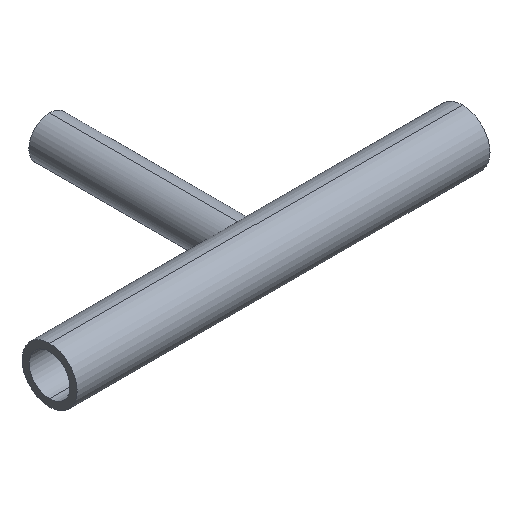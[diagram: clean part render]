
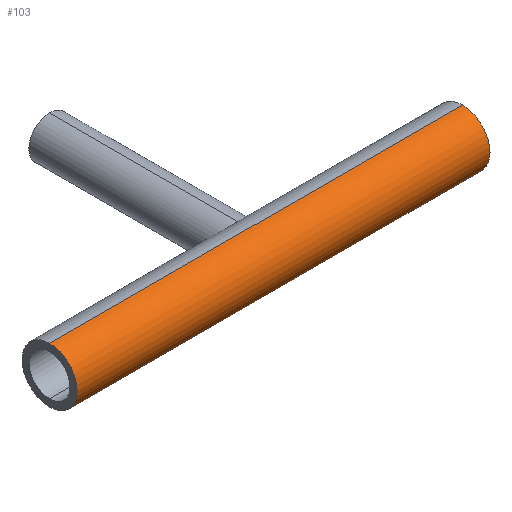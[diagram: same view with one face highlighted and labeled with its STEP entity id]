
A CAD part, isometric view. The second image highlights one B-rep face of the part: STEP entity #103.
In plain terms, the highlighted cylindrical face has radius 6.35 mm (diameter 12.7 mm), a partial arc.
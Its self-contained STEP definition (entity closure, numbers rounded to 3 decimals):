
#1 = AXIS2_PLACEMENT_3D ( 'NONE', #226, #488, #270 ) ;
#20 = CIRCLE ( 'NONE', #1, 6.35 ) ;
#24 = AXIS2_PLACEMENT_3D ( 'NONE', #113, #241, #190 ) ;
#31 = EDGE_CURVE ( 'NONE', #121, #253, #147, .T. ) ;
#33 = CARTESIAN_POINT ( 'NONE',  ( 47.6, 0., 6.35 ) ) ;
#49 = DIRECTION ( 'NONE',  ( 1., 0., 0. ) ) ;
#65 = DIRECTION ( 'NONE',  ( 1., 0., 0. ) ) ;
#79 = EDGE_LOOP ( 'NONE', ( #194, #450, #139, #304 ) ) ;
#103 = ADVANCED_FACE ( 'NONE', ( #364 ), #214, .T. ) ;
#113 = CARTESIAN_POINT ( 'NONE',  ( -47.6, 0., 0. ) ) ;
#121 = VERTEX_POINT ( 'NONE', #350 ) ;
#139 = ORIENTED_EDGE ( 'NONE', *, *, #31, .T. ) ;
#146 = CIRCLE ( 'NONE', #24, 6.35 ) ;
#147 = LINE ( 'NONE', #258, #307 ) ;
#162 = DIRECTION ( 'NONE',  ( 1., 0., 0. ) ) ;
#179 = EDGE_CURVE ( 'NONE', #275, #121, #146, .T. ) ;
#189 = CARTESIAN_POINT ( 'NONE',  ( 47.6, 0., -6.35 ) ) ;
#190 = DIRECTION ( 'NONE',  ( 0., 0., -1. ) ) ;
#194 = ORIENTED_EDGE ( 'NONE', *, *, #236, .F. ) ;
#198 = LINE ( 'NONE', #501, #352 ) ;
#214 = CYLINDRICAL_SURFACE ( 'NONE', #269, 6.35 ) ;
#226 = CARTESIAN_POINT ( 'NONE',  ( 47.6, 0., 0. ) ) ;
#236 = EDGE_CURVE ( 'NONE', #275, #289, #198, .T. ) ;
#241 = DIRECTION ( 'NONE',  ( 1., 0., 0. ) ) ;
#253 = VERTEX_POINT ( 'NONE', #189 ) ;
#258 = CARTESIAN_POINT ( 'NONE',  ( -47.6, 0., -6.35 ) ) ;
#269 = AXIS2_PLACEMENT_3D ( 'NONE', #475, #65, #462 ) ;
#270 = DIRECTION ( 'NONE',  ( 0., 0., -1. ) ) ;
#275 = VERTEX_POINT ( 'NONE', #303 ) ;
#289 = VERTEX_POINT ( 'NONE', #33 ) ;
#303 = CARTESIAN_POINT ( 'NONE',  ( -47.6, 0., 6.35 ) ) ;
#304 = ORIENTED_EDGE ( 'NONE', *, *, #459, .T. ) ;
#307 = VECTOR ( 'NONE', #49, 1000. ) ;
#350 = CARTESIAN_POINT ( 'NONE',  ( -47.6, 0., -6.35 ) ) ;
#352 = VECTOR ( 'NONE', #162, 1000. ) ;
#364 = FACE_OUTER_BOUND ( 'NONE', #79, .T. ) ;
#450 = ORIENTED_EDGE ( 'NONE', *, *, #179, .T. ) ;
#459 = EDGE_CURVE ( 'NONE', #253, #289, #20, .T. ) ;
#462 = DIRECTION ( 'NONE',  ( 0., 0., -1. ) ) ;
#475 = CARTESIAN_POINT ( 'NONE',  ( -47.6, 0., 0. ) ) ;
#488 = DIRECTION ( 'NONE',  ( -1., 0., 0. ) ) ;
#501 = CARTESIAN_POINT ( 'NONE',  ( -47.6, 0., 6.35 ) ) ;
